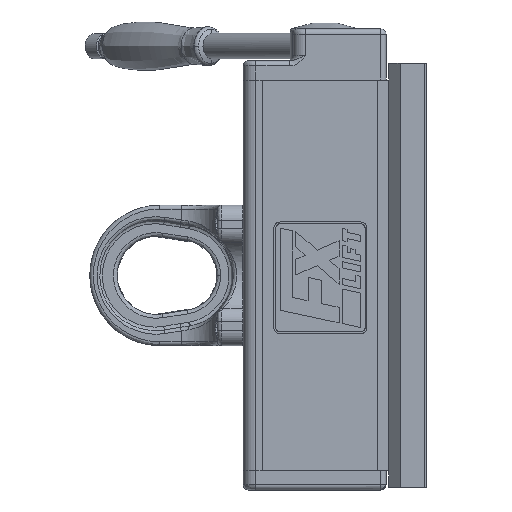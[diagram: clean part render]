
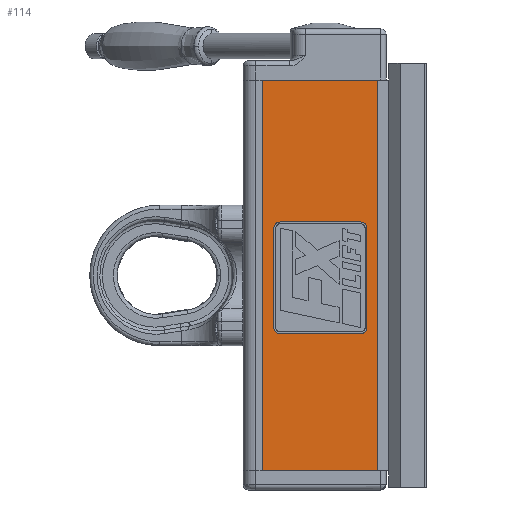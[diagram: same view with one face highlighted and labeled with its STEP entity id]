
A CAD part, left-side view. The second image highlights one B-rep face of the part: STEP entity #114.
In plain terms, the highlighted planar face has unit normal (-1, 0, 0).
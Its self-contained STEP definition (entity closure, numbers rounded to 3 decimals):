
#114=ADVANCED_FACE('NONE',(#952,#953),#954,.F.);
#952=FACE_OUTER_BOUND('',#3200,.T.);
#953=FACE_BOUND('',#3201,.T.);
#954=PLANE('',#3202);
#3200=EDGE_LOOP('',(#13373,#13374,#13375,#13376));
#3201=EDGE_LOOP('',(#13377,#13378,#13379,#13380,#13381,#13382,#13383,#13384));
#3202=AXIS2_PLACEMENT_3D('',#13385,#13386,#13387);
#13373=ORIENTED_EDGE('',*,*,#18976,.T.);
#13374=ORIENTED_EDGE('',*,*,#18977,.F.);
#13375=ORIENTED_EDGE('',*,*,#18978,.F.);
#13376=ORIENTED_EDGE('',*,*,#18979,.T.);
#13377=ORIENTED_EDGE('',*,*,#18980,.T.);
#13378=ORIENTED_EDGE('',*,*,#18981,.T.);
#13379=ORIENTED_EDGE('',*,*,#18982,.T.);
#13380=ORIENTED_EDGE('',*,*,#18983,.T.);
#13381=ORIENTED_EDGE('',*,*,#18984,.T.);
#13382=ORIENTED_EDGE('',*,*,#18985,.T.);
#13383=ORIENTED_EDGE('',*,*,#18986,.T.);
#13384=ORIENTED_EDGE('',*,*,#18987,.T.);
#13385=CARTESIAN_POINT('',(-74.5,0.,153.0));
#13386=DIRECTION('',(1.0,0.,0.));
#13387=DIRECTION('',(0.0,1.0,0.));
#18976=EDGE_CURVE('NONE',#21183,#21184,#21185,.T.);
#18977=EDGE_CURVE('NONE',#21186,#21184,#21187,.T.);
#18978=EDGE_CURVE('NONE',#21188,#21186,#21189,.T.);
#18979=EDGE_CURVE('NONE',#21188,#21183,#21190,.T.);
#18980=EDGE_CURVE('NONE',#21191,#21192,#21193,.T.);
#18981=EDGE_CURVE('NONE',#21192,#21194,#21195,.T.);
#18982=EDGE_CURVE('NONE',#21194,#21196,#21197,.T.);
#18983=EDGE_CURVE('NONE',#21196,#21198,#21199,.T.);
#18984=EDGE_CURVE('NONE',#21198,#21200,#21201,.T.);
#18985=EDGE_CURVE('NONE',#21200,#21202,#21203,.T.);
#18986=EDGE_CURVE('NONE',#21202,#21204,#21205,.T.);
#18987=EDGE_CURVE('NONE',#21204,#21191,#21206,.T.);
#21183=VERTEX_POINT('NONE',#25561);
#21184=VERTEX_POINT('NONE',#25562);
#21185=LINE('',#25563,#25564);
#21186=VERTEX_POINT('NONE',#25565);
#21187=LINE('',#25566,#25567);
#21188=VERTEX_POINT('NONE',#25568);
#21189=LINE('',#25569,#25570);
#21190=LINE('',#25571,#25572);
#21191=VERTEX_POINT('NONE',#25573);
#21192=VERTEX_POINT('NONE',#25574);
#21193=B_SPLINE_CURVE_WITH_KNOTS('',3,(#25575,#25576,#25577,#25578),.UNSPECIFIED.,.F.,.F.,(4,4),(0.778,1.0),.UNSPECIFIED.);
#21194=VERTEX_POINT('NONE',#25579);
#21195=LINE('',#25580,#25581);
#21196=VERTEX_POINT('NONE',#25582);
#21197=B_SPLINE_CURVE_WITH_KNOTS('',3,(#25583,#25584,#25585,#25586),.UNSPECIFIED.,.F.,.F.,(4,4),(0.111,0.222),.UNSPECIFIED.);
#21198=VERTEX_POINT('NONE',#25587);
#21199=LINE('',#25588,#25589);
#21200=VERTEX_POINT('NONE',#25590);
#21201=B_SPLINE_CURVE_WITH_KNOTS('',3,(#25591,#25592,#25593,#25594),.UNSPECIFIED.,.F.,.F.,(4,4),(0.333,0.444),.UNSPECIFIED.);
#21202=VERTEX_POINT('NONE',#25595);
#21203=LINE('',#25596,#25597);
#21204=VERTEX_POINT('NONE',#25598);
#21205=B_SPLINE_CURVE_WITH_KNOTS('',3,(#25599,#25600,#25601,#25602),.UNSPECIFIED.,.F.,.F.,(4,4),(0.556,0.667),.UNSPECIFIED.);
#21206=LINE('',#25603,#25604);
#25561=CARTESIAN_POINT('',(-74.5,49.0,-153.0));
#25562=CARTESIAN_POINT('',(-74.5,-42.5,-153.0));
#25563=CARTESIAN_POINT('',(-74.5,0.,-153.0));
#25564=VECTOR('',#35600,1000.0);
#25565=CARTESIAN_POINT('',(-74.5,-42.5,153.0));
#25566=CARTESIAN_POINT('',(-74.5,-42.5,153.0));
#25567=VECTOR('',#35601,1000.0);
#25568=CARTESIAN_POINT('',(-74.5,49.0,153.0));
#25569=CARTESIAN_POINT('',(-74.5,0.,153.0));
#25570=VECTOR('',#35602,1000.0);
#25571=CARTESIAN_POINT('',(-74.5,49.0,153.0));
#25572=VECTOR('',#35603,1000.0);
#25573=CARTESIAN_POINT('',(-74.5,34.957,-45.581));
#25574=CARTESIAN_POINT('',(-74.5,39.814,-40.723));
#25575=CARTESIAN_POINT('',(-74.5,34.957,-45.581));
#25576=CARTESIAN_POINT('',(-74.5,37.628,-45.581));
#25577=CARTESIAN_POINT('',(-74.5,39.814,-43.395));
#25578=CARTESIAN_POINT('',(-74.5,39.814,-40.723));
#25579=CARTESIAN_POINT('',(-74.5,39.814,37.001));
#25580=CARTESIAN_POINT('',(-74.5,39.814,0.));
#25581=VECTOR('',#35604,1000.0);
#25582=CARTESIAN_POINT('',(-74.5,34.957,41.859));
#25583=CARTESIAN_POINT('',(-74.5,39.814,37.001));
#25584=CARTESIAN_POINT('',(-74.5,39.814,39.673));
#25585=CARTESIAN_POINT('',(-74.5,37.628,41.859));
#25586=CARTESIAN_POINT('',(-74.5,34.957,41.859));
#25587=CARTESIAN_POINT('',(-74.5,-28.194,41.859));
#25588=CARTESIAN_POINT('',(-74.5,0.,41.859));
#25589=VECTOR('',#35605,1000.0);
#25590=CARTESIAN_POINT('',(-74.5,-33.052,37.001));
#25591=CARTESIAN_POINT('',(-74.5,-28.194,41.859));
#25592=CARTESIAN_POINT('',(-74.5,-30.866,41.859));
#25593=CARTESIAN_POINT('',(-74.5,-33.052,39.673));
#25594=CARTESIAN_POINT('',(-74.5,-33.052,37.001));
#25595=CARTESIAN_POINT('',(-74.5,-33.052,-40.723));
#25596=CARTESIAN_POINT('',(-74.5,-33.052,0.));
#25597=VECTOR('',#35606,1000.0);
#25598=CARTESIAN_POINT('',(-74.5,-28.194,-45.581));
#25599=CARTESIAN_POINT('',(-74.5,-33.052,-40.723));
#25600=CARTESIAN_POINT('',(-74.5,-33.052,-43.395));
#25601=CARTESIAN_POINT('',(-74.5,-30.866,-45.581));
#25602=CARTESIAN_POINT('',(-74.5,-28.194,-45.581));
#25603=CARTESIAN_POINT('',(-74.5,0.,-45.581));
#25604=VECTOR('',#35607,1000.0);
#35600=DIRECTION('',(0.,-1.0,0.0));
#35601=DIRECTION('',(-0.0,-0.0,-1.0));
#35602=DIRECTION('',(0.,-1.0,0.0));
#35603=DIRECTION('',(-0.0,-0.0,-1.0));
#35604=DIRECTION('',(0.,0.,1.0));
#35605=DIRECTION('',(0.,-1.0,0.));
#35606=DIRECTION('',(0.,0.,-1.0));
#35607=DIRECTION('',(0.,1.0,0.0));
